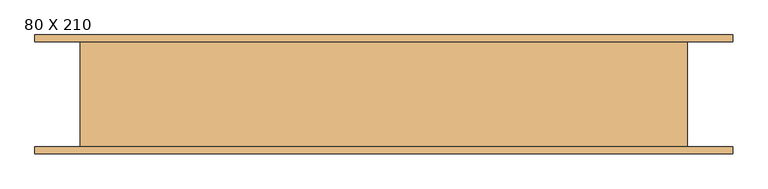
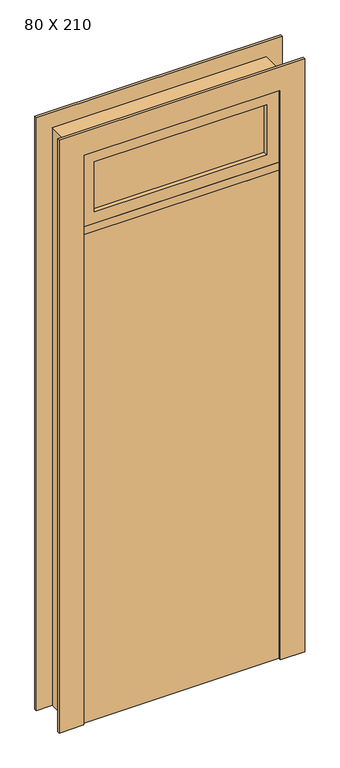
"""IFC4 building model written with IfcOpenShell, lengths in millimetres: door geometry, PORTA DE ABRIR - 1 FOLHA + BANDEIRA FIXA COM VIDRO - 1 FOLHA : 80 X 210."""

from ifc_helpers import new_model, si_unit, frame, origin, origin_with_axes, place, context, project, spatial, polyline, outline, extrude, faceted_brep, source, transform, mapped, element, save


def door_80_x_210_69a38d2f(model_context):
    return source(origin(), model_context, "Body", "SolidModel", [
        extrude(outline(polyline([(430.0, -52.0), (430.0, -58.0), (-270.0, -58.0), (-270.0, -52.0), (430.0, -52.0)])), frame((0.0, 0.0, 2185.0), z_axis=(0.0, 0.0, 1.0), x_axis=(1.0, 0.0, 0.0)), (0.0, 0.0, 1.0), 215.0),
        extrude(outline(polyline([(2450.0, 480.0), (2450.0, -320.0), (2135.0, -320.0), (2135.0, 480.0), (2450.0, 480.0)]), holes=[polyline([(2400.0, 430.0), (2185.0, 430.0), (2185.0, -270.0), (2400.0, -270.0), (2400.0, 430.0)])]), frame((0.0, -75.0, 0.0), z_axis=(0.0, 1.0, 0.0), x_axis=(0.0, 0.0, 1.0)), (0.0, 0.0, 1.0), 40.0),
        extrude(outline(polyline([(480.0, -75.0), (-320.0, -75.0), (-320.0, -35.0), (480.0, -35.0), (480.0, -75.0)])), origin_with_axes(), (0.0, 0.0, 1.0), 2100.0),
        extrude(outline(polyline([(2450.0, 480.0), (0.0, 480.0), (0.0, 580.0), (2550.0, 580.0), (2550.0, -420.0), (0.0, -420.0), (0.0, -320.0), (2450.0, -320.0), (2450.0, 480.0)])), frame((0.0, 75.0, 0.0), z_axis=(0.0, 1.0, 0.0), x_axis=(0.0, 0.0, 1.0)), (0.0, 0.0, 1.0), 10.0),
        extrude(outline(polyline([(2450.0, -320.0), (2450.0, 480.0), (0.0, 480.0), (0.0, 580.0), (2550.0, 580.0), (2550.0, -420.0), (0.0, -420.0), (0.0, -320.0), (2450.0, -320.0)])), frame((0.0, -85.0, 0.0), z_axis=(0.0, 1.0, 0.0), x_axis=(0.0, 0.0, 1.0)), (0.0, 0.0, 1.0), 10.0),
        faceted_brep([(-355.0, 75.0, 0.0), (-310.0, 75.0, 0.0), (-310.0, -35.0, 0.0), (-320.0, -35.0, 0.0), (-320.0, -75.0, 0.0), (-355.0, -75.0, 0.0), (-355.0, 75.0, 2485.0), (515.0, 75.0, 2485.0), (515.0, 75.0, 0.0), (470.0, 75.0, 0.0), (470.0, 75.0, 2090.0), (-310.0, 75.0, 2090.0), (-320.0, 75.0, 2135.0), (480.0, 75.0, 2135.0), (480.0, 75.0, 2450.0), (-320.0, 75.0, 2450.0), (-310.0, -35.0, 2090.0), (470.0, -35.0, 2090.0), (470.0, -35.0, 0.0), (480.0, -35.0, 0.0), (480.0, -35.0, 1800.0), (480.0, -35.0, 2100.0), (-320.0, -35.0, 2100.0), (-320.0, -35.0, 1800.0), (-320.0, -75.0, 2100.0), (480.0, -75.0, 2100.0), (480.0, -75.0, 0.0), (515.0, -75.0, 0.0), (515.0, -75.0, 2485.0), (-355.0, -75.0, 2485.0), (480.0, -75.0, 2135.0), (-320.0, -75.0, 2135.0), (-320.0, -75.0, 2450.0), (480.0, -75.0, 2450.0)], [[[0, 1, 2, 3, 4, 5]], [[1, 0, 6, 7, 8, 9, 10, 11], [12, 13, 14, 15]], [[2, 1, 11, 16]], [[3, 2, 16, 17, 18, 19, 20, 21, 22, 23]], [[24, 4, 3, 23, 22]], [[5, 4, 24, 25, 26, 27, 28, 29], [30, 31, 32, 33]], [[6, 0, 5, 29]], [[28, 27, 8, 7]], [[9, 8, 27, 26, 19, 18]], [[10, 9, 18, 17]], [[26, 25, 21, 20, 19]], [[33, 14, 13, 30]], [[33, 32, 15, 14]], [[15, 32, 31, 12]], [[29, 28, 7, 6]], [[11, 10, 17, 16]], [[22, 21, 25, 24]], [[13, 12, 31, 30]]]),
    ])


if __name__ == "__main__":
    model = new_model("IFC4")
    model_context = context("Model", 3, world=origin())
    ifc_project = project(units=[si_unit("LENGTHUNIT", "METRE", prefix="MILLI")], contexts=[model_context])
    site = spatial("IfcSite", under=ifc_project)
    building = spatial("IfcBuilding", under=site)
    placement = place(None, origin())
    door_80_x_210_shape = door_80_x_210_69a38d2f(model_context)
    element("IfcDoor", 1, ObjectType="PORTA DE ABRIR - 1 FOLHA + BANDEIRA FIXA COM VIDRO - 1 FOLHA : 80 X 210", at=placement, inside=building, context=model_context, shape_type="MappedRepresentation", body=[
        mapped(door_80_x_210_shape, transform((0.0, 0.0, 0.0), x_axis=(1.0, 0.0, 0.0), y_axis=(0.0, 1.0, 0.0), z_axis=(0.0, 0.0, 1.0))),
    ])
    save(model, "model.ifc")
